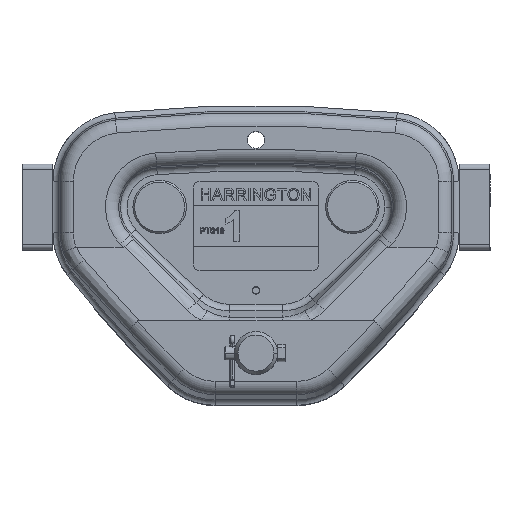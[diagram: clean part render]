
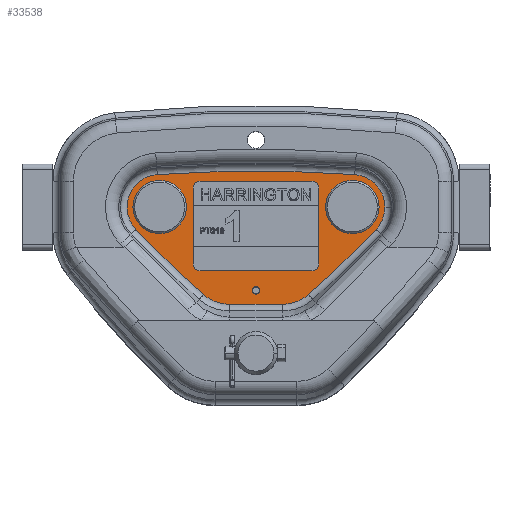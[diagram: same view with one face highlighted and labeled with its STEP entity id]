
A CAD part, top view. The second image highlights one B-rep face of the part: STEP entity #33538.
In plain terms, the highlighted planar face has unit normal (0, 0, 1).
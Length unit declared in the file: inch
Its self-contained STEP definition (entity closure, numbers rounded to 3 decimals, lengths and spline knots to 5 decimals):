
#33 = EDGE_CURVE ( 'NONE', #1727, #25244, #16491, .T. ) ;
#151 = CARTESIAN_POINT ( 'NONE',  ( -2.20472, 3.34609, 0.15748 ) ) ;
#256 = ORIENTED_EDGE ( 'NONE', *, *, #4925, .T. ) ;
#373 = CIRCLE ( 'NONE', #3166, 0.9032 ) ;
#470 = CIRCLE ( 'NONE', #17935, 0.74533 ) ;
#508 = DIRECTION ( 'NONE',  ( 1., 0., 0. ) ) ;
#621 = AXIS2_PLACEMENT_3D ( 'NONE', #18727, #24713, #29835 ) ;
#1096 = DIRECTION ( 'NONE',  ( 0., 0., -1. ) ) ;
#1644 = EDGE_CURVE ( 'NONE', #33516, #29514, #23073, .T. ) ;
#1727 = VERTEX_POINT ( 'NONE', #27159 ) ;
#1847 = AXIS2_PLACEMENT_3D ( 'NONE', #24685, #18881, #32450 ) ;
#2115 = VERTEX_POINT ( 'NONE', #17341 ) ;
#2264 = CIRCLE ( 'NONE', #20293, 23.52682 ) ;
#2976 = FACE_BOUND ( 'NONE', #33417, .T. ) ;
#3166 = AXIS2_PLACEMENT_3D ( 'NONE', #28410, #28931, #7023 ) ;
#3174 = DIRECTION ( 'NONE',  ( 1., 0., 0. ) ) ;
#3554 = AXIS2_PLACEMENT_3D ( 'NONE', #15045, #33905, #4428 ) ;
#4401 = VERTEX_POINT ( 'NONE', #27086 ) ;
#4428 = DIRECTION ( 'NONE',  ( 1., 0., 0. ) ) ;
#4521 = AXIS2_PLACEMENT_3D ( 'NONE', #13780, #29482, #3174 ) ;
#4560 = ORIENTED_EDGE ( 'NONE', *, *, #21209, .T. ) ;
#4925 = EDGE_CURVE ( 'NONE', #18022, #15195, #24418, .T. ) ;
#5256 = FACE_BOUND ( 'NONE', #9166, .T. ) ;
#5428 = FACE_BOUND ( 'NONE', #16096, .T. ) ;
#5710 = AXIS2_PLACEMENT_3D ( 'NONE', #7012, #17997, #33839 ) ;
#5719 = VERTEX_POINT ( 'NONE', #7202 ) ;
#6103 = CARTESIAN_POINT ( 'NONE',  ( 2.20472, 3.34609, 0.15748 ) ) ;
#6839 = CARTESIAN_POINT ( 'NONE',  ( 2.20472, 3.34646, 0.15748 ) ) ;
#7012 = CARTESIAN_POINT ( 'NONE',  ( 0., -27.07215, 0.15748 ) ) ;
#7023 = DIRECTION ( 'NONE',  ( 1., 0., 0. ) ) ;
#7202 = CARTESIAN_POINT ( 'NONE',  ( 1.69291, 3.34646, 0.15748 ) ) ;
#7596 = ORIENTED_EDGE ( 'NONE', *, *, #1644, .T. ) ;
#8074 = DIRECTION ( 'NONE',  ( 0., 0., 1. ) ) ;
#8750 = ORIENTED_EDGE ( 'NONE', *, *, #17916, .T. ) ;
#8878 = EDGE_CURVE ( 'NONE', #5719, #4401, #29798, .T. ) ;
#8893 = VERTEX_POINT ( 'NONE', #25400 ) ;
#9051 = ORIENTED_EDGE ( 'NONE', *, *, #11750, .T. ) ;
#9166 = EDGE_LOOP ( 'NONE', ( #33954, #256 ) ) ;
#9204 = DIRECTION ( 'NONE',  ( 0., 0., 1. ) ) ;
#9661 = AXIS2_PLACEMENT_3D ( 'NONE', #32643, #21361, #24704 ) ;
#9801 = VERTEX_POINT ( 'NONE', #30781 ) ;
#10104 = AXIS2_PLACEMENT_3D ( 'NONE', #151, #32622, #22204 ) ;
#10275 = AXIS2_PLACEMENT_3D ( 'NONE', #13754, #10914, #508 ) ;
#10914 = DIRECTION ( 'NONE',  ( 0., 0., 1. ) ) ;
#11601 = EDGE_CURVE ( 'NONE', #4401, #5719, #26381, .T. ) ;
#11627 = ORIENTED_EDGE ( 'NONE', *, *, #33, .T. ) ;
#11744 = ORIENTED_EDGE ( 'NONE', *, *, #32374, .T. ) ;
#11750 = EDGE_CURVE ( 'NONE', #8893, #31609, #32957, .T. ) ;
#11768 = DIRECTION ( 'NONE',  ( 1., 0., 0. ) ) ;
#11842 = DIRECTION ( 'NONE',  ( 1., 0., 0. ) ) ;
#12282 = CARTESIAN_POINT ( 'NONE',  ( 0.6053, 1.12059, 0.15748 ) ) ;
#12789 = DIRECTION ( 'NONE',  ( 0., 0., -1. ) ) ;
#13236 = CARTESIAN_POINT ( 'NONE',  ( -2.2586, 4.08946, 0.15748 ) ) ;
#13720 = AXIS2_PLACEMENT_3D ( 'NONE', #26202, #12789, #32016 ) ;
#13754 = CARTESIAN_POINT ( 'NONE',  ( -2.20472, 3.34646, 0.15748 ) ) ;
#13780 = CARTESIAN_POINT ( 'NONE',  ( 0.6053, 2.02379, 0.15748 ) ) ;
#13923 = PLANE ( 'NONE',  #1847 ) ;
#13974 = ORIENTED_EDGE ( 'NONE', *, *, #29105, .T. ) ;
#14642 = EDGE_CURVE ( 'NONE', #2115, #28574, #18810, .T. ) ;
#15045 = CARTESIAN_POINT ( 'NONE',  ( -2.20472, 3.34646, 0.15748 ) ) ;
#15195 = VERTEX_POINT ( 'NONE', #27523 ) ;
#15683 = ORIENTED_EDGE ( 'NONE', *, *, #14642, .F. ) ;
#16096 = EDGE_LOOP ( 'NONE', ( #15683, #29548 ) ) ;
#16491 = CIRCLE ( 'NONE', #9661, 0.74533 ) ;
#16579 = DIRECTION ( 'NONE',  ( 1., 0., 0. ) ) ;
#16702 = CARTESIAN_POINT ( 'NONE',  ( -2.74583, 2.83353, 0.15748 ) ) ;
#17341 = CARTESIAN_POINT ( 'NONE',  ( -2.71654, 3.34646, 0.15748 ) ) ;
#17916 = EDGE_CURVE ( 'NONE', #23177, #8893, #373, .T. ) ;
#17935 = AXIS2_PLACEMENT_3D ( 'NONE', #6103, #18917, #19564 ) ;
#17997 = DIRECTION ( 'NONE',  ( 0., 0., 1. ) ) ;
#18022 = VERTEX_POINT ( 'NONE', #29815 ) ;
#18207 = ORIENTED_EDGE ( 'NONE', *, *, #30997, .T. ) ;
#18399 = VERTEX_POINT ( 'NONE', #18759 ) ;
#18439 = CARTESIAN_POINT ( 'NONE',  ( -1.69291, 3.34646, 0.15748 ) ) ;
#18684 = CIRCLE ( 'NONE', #4521, 0.9032 ) ;
#18727 = CARTESIAN_POINT ( 'NONE',  ( 14.33462, 19.01282, 0.15748 ) ) ;
#18759 = CARTESIAN_POINT ( 'NONE',  ( 1.20174, 1.34554, 0.15748 ) ) ;
#18810 = CIRCLE ( 'NONE', #3554, 0.51181 ) ;
#18881 = DIRECTION ( 'NONE',  ( 0., 0., 1. ) ) ;
#18917 = DIRECTION ( 'NONE',  ( 0., 0., 1. ) ) ;
#19564 = DIRECTION ( 'NONE',  ( 1., 0., 0. ) ) ;
#20293 = AXIS2_PLACEMENT_3D ( 'NONE', #21781, #9204, #30745 ) ;
#21191 = EDGE_CURVE ( 'NONE', #29514, #23177, #31038, .T. ) ;
#21209 = EDGE_CURVE ( 'NONE', #31609, #18399, #18684, .T. ) ;
#21361 = DIRECTION ( 'NONE',  ( 0., 0., 1. ) ) ;
#21582 = CIRCLE ( 'NONE', #10275, 0.51181 ) ;
#21781 = CARTESIAN_POINT ( 'NONE',  ( -14.33462, 19.01282, 0.15748 ) ) ;
#22084 = CIRCLE ( 'NONE', #5710, 31.24336 ) ;
#22190 = CIRCLE ( 'NONE', #31119, 0.08465 ) ;
#22204 = DIRECTION ( 'NONE',  ( 1., 0., 0. ) ) ;
#23073 = CIRCLE ( 'NONE', #10104, 0.74533 ) ;
#23177 = VERTEX_POINT ( 'NONE', #29525 ) ;
#24243 = EDGE_CURVE ( 'NONE', #15195, #18022, #22190, .T. ) ;
#24418 = CIRCLE ( 'NONE', #13720, 0.08465 ) ;
#24685 = CARTESIAN_POINT ( 'NONE',  ( 14.33462, 19.01282, 0.15748 ) ) ;
#24704 = DIRECTION ( 'NONE',  ( 1., 0., 0. ) ) ;
#24713 = DIRECTION ( 'NONE',  ( 0., 0., 1. ) ) ;
#24852 = CARTESIAN_POINT ( 'NONE',  ( 2.20472, 3.34646, 0.15748 ) ) ;
#25244 = VERTEX_POINT ( 'NONE', #29572 ) ;
#25400 = CARTESIAN_POINT ( 'NONE',  ( -0.6053, 1.12059, 0.15748 ) ) ;
#26202 = CARTESIAN_POINT ( 'NONE',  ( 0., 1.43701, 0.15748 ) ) ;
#26381 = CIRCLE ( 'NONE', #26962, 0.51181 ) ;
#26786 = EDGE_LOOP ( 'NONE', ( #18207, #13974, #11627, #11744, #7596, #28850, #8750, #9051, #4560 ) ) ;
#26962 = AXIS2_PLACEMENT_3D ( 'NONE', #24852, #8074, #16579 ) ;
#27085 = ORIENTED_EDGE ( 'NONE', *, *, #11601, .F. ) ;
#27086 = CARTESIAN_POINT ( 'NONE',  ( 2.71654, 3.34646, 0.15748 ) ) ;
#27159 = CARTESIAN_POINT ( 'NONE',  ( 2.95005, 3.34609, 0.15748 ) ) ;
#27523 = CARTESIAN_POINT ( 'NONE',  ( -0.08465, 1.43701, 0.15748 ) ) ;
#27567 = CARTESIAN_POINT ( 'NONE',  ( 0., 1.43701, 0.15748 ) ) ;
#28359 = CARTESIAN_POINT ( 'NONE',  ( 0.6053, 1.12059, 0.15748 ) ) ;
#28399 = DIRECTION ( 'NONE',  ( 1., 0., 0. ) ) ;
#28410 = CARTESIAN_POINT ( 'NONE',  ( -0.6053, 2.02379, 0.15748 ) ) ;
#28574 = VERTEX_POINT ( 'NONE', #18439 ) ;
#28850 = ORIENTED_EDGE ( 'NONE', *, *, #21191, .T. ) ;
#28931 = DIRECTION ( 'NONE',  ( 0., 0., 1. ) ) ;
#29105 = EDGE_CURVE ( 'NONE', #9801, #1727, #470, .T. ) ;
#29482 = DIRECTION ( 'NONE',  ( 0., 0., 1. ) ) ;
#29514 = VERTEX_POINT ( 'NONE', #16702 ) ;
#29525 = CARTESIAN_POINT ( 'NONE',  ( -1.20174, 1.34554, 0.15748 ) ) ;
#29548 = ORIENTED_EDGE ( 'NONE', *, *, #33539, .F. ) ;
#29572 = CARTESIAN_POINT ( 'NONE',  ( 2.2586, 4.08946, 0.15748 ) ) ;
#29798 = CIRCLE ( 'NONE', #30340, 0.51181 ) ;
#29815 = CARTESIAN_POINT ( 'NONE',  ( 0.08465, 1.43701, 0.15748 ) ) ;
#29835 = DIRECTION ( 'NONE',  ( 1., 0., 0. ) ) ;
#30340 = AXIS2_PLACEMENT_3D ( 'NONE', #6839, #34197, #28399 ) ;
#30745 = DIRECTION ( 'NONE',  ( 1., 0., 0. ) ) ;
#30781 = CARTESIAN_POINT ( 'NONE',  ( 2.74583, 2.83353, 0.15748 ) ) ;
#30997 = EDGE_CURVE ( 'NONE', #18399, #9801, #2264, .T. ) ;
#31038 = CIRCLE ( 'NONE', #621, 23.52682 ) ;
#31119 = AXIS2_PLACEMENT_3D ( 'NONE', #27567, #1096, #11842 ) ;
#31609 = VERTEX_POINT ( 'NONE', #12282 ) ;
#32016 = DIRECTION ( 'NONE',  ( 1., 0., 0. ) ) ;
#32374 = EDGE_CURVE ( 'NONE', #25244, #33516, #22084, .T. ) ;
#32425 = ORIENTED_EDGE ( 'NONE', *, *, #8878, .F. ) ;
#32450 = DIRECTION ( 'NONE',  ( 1., 0., 0. ) ) ;
#32622 = DIRECTION ( 'NONE',  ( 0., 0., 1. ) ) ;
#32643 = CARTESIAN_POINT ( 'NONE',  ( 2.20472, 3.34609, 0.15748 ) ) ;
#32957 = LINE ( 'NONE', #28359, #33686 ) ;
#33417 = EDGE_LOOP ( 'NONE', ( #32425, #27085 ) ) ;
#33516 = VERTEX_POINT ( 'NONE', #13236 ) ;
#33538 = ADVANCED_FACE ( 'NONE', ( #2976, #5428, #34736, #5256 ), #13923, .T. ) ;
#33539 = EDGE_CURVE ( 'NONE', #28574, #2115, #21582, .T. ) ;
#33686 = VECTOR ( 'NONE', #11768, 39.37008 ) ;
#33839 = DIRECTION ( 'NONE',  ( 1., 0., 0. ) ) ;
#33905 = DIRECTION ( 'NONE',  ( 0., 0., 1. ) ) ;
#33954 = ORIENTED_EDGE ( 'NONE', *, *, #24243, .T. ) ;
#34197 = DIRECTION ( 'NONE',  ( 0., 0., 1. ) ) ;
#34736 = FACE_OUTER_BOUND ( 'NONE', #26786, .T. ) ;
